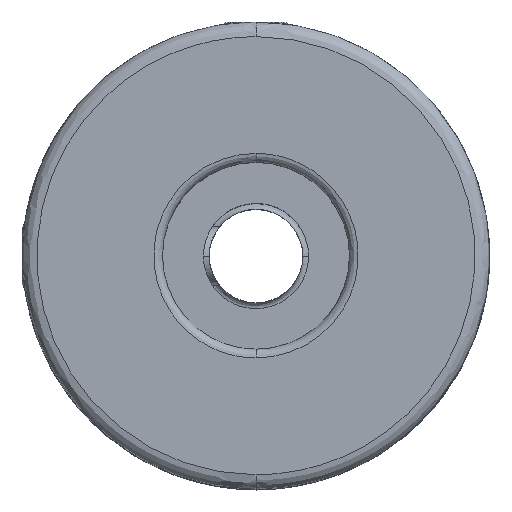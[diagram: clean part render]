
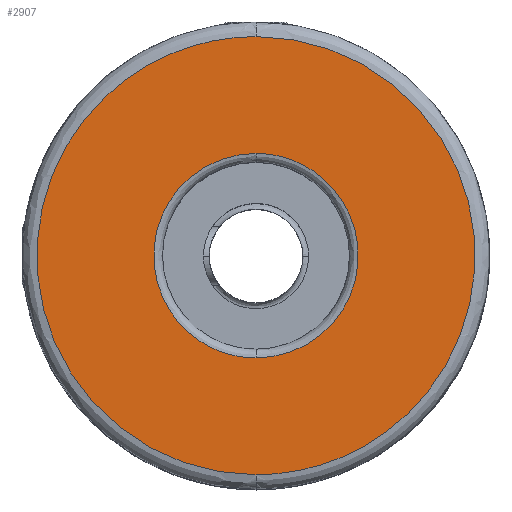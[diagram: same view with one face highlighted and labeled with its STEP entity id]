
A CAD part, top view. The second image highlights one B-rep face of the part: STEP entity #2907.
In plain terms, the highlighted planar face has unit normal (0, 0, 1).
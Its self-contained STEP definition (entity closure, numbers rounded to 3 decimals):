
#656 = EDGE_CURVE ( 'NONE', #3530, #3588, #7852, .T. ) ;
#2628 = CARTESIAN_POINT ( 'NONE',  ( 38.621, -16.755, 26.552 ) ) ;
#2874 = ORIENTED_EDGE ( 'NONE', *, *, #3526, .F. ) ;
#2883 = ORIENTED_EDGE ( 'NONE', *, *, #656, .F. ) ;
#2884 = EDGE_LOOP ( 'NONE', ( #2874, #2883 ) ) ;
#2887 = VERTEX_POINT ( 'NONE', #5253 ) ;
#2888 = EDGE_CURVE ( 'NONE', #2887, #2890, #5292, .T. ) ;
#2889 = ORIENTED_EDGE ( 'NONE', *, *, #2888, .F. ) ;
#2890 = VERTEX_POINT ( 'NONE', #5293 ) ;
#2906 = EDGE_LOOP ( 'NONE', ( #2908, #2889 ) ) ;
#2907 = ADVANCED_FACE ( 'NONE', ( #5306, #5301 ), #5300, .F. ) ;
#2908 = ORIENTED_EDGE ( 'NONE', *, *, #2909, .F. ) ;
#2909 = EDGE_CURVE ( 'NONE', #2890, #2887, #5294, .T. ) ;
#3032 = CARTESIAN_POINT ( 'NONE',  ( 1.121, -16.755, 26.552 ) ) ;
#3526 = EDGE_CURVE ( 'NONE', #3588, #3530, #6570, .T. ) ;
#3530 = VERTEX_POINT ( 'NONE', #6608 ) ;
#3588 = VERTEX_POINT ( 'NONE', #6754 ) ;
#5253 = CARTESIAN_POINT ( 'NONE',  ( 1.121, 10.745, 26.552 ) ) ;
#5288 = CARTESIAN_POINT ( 'NONE',  ( 1.121, -6.755, 26.552 ) ) ;
#5289 = CARTESIAN_POINT ( 'NONE',  ( -16.379, -6.755, 26.552 ) ) ;
#5290 = CARTESIAN_POINT ( 'NONE',  ( -16.379, 10.745, 26.552 ) ) ;
#5291 = CARTESIAN_POINT ( 'NONE',  ( 1.121, 10.745, 26.552 ) ) ;
#5292 =( BOUNDED_CURVE ( )  B_SPLINE_CURVE ( 3, ( #5291, #5290, #5289, #5288 ),
 .UNSPECIFIED., .F., .T. ) 
 B_SPLINE_CURVE_WITH_KNOTS ( ( 4, 4 ),
 ( 0., 1. ),
 .UNSPECIFIED. ) 
 CURVE ( )  GEOMETRIC_REPRESENTATION_ITEM ( )  RATIONAL_B_SPLINE_CURVE ( ( 1., 0.333, 0.333, 1. ) ) 
 REPRESENTATION_ITEM ( '' )  );
#5293 = CARTESIAN_POINT ( 'NONE',  ( 1.121, -6.755, 26.552 ) ) ;
#5294 =( BOUNDED_CURVE ( )  B_SPLINE_CURVE ( 3, ( #5341, #5340, #5339, #5338 ),
 .UNSPECIFIED., .F., .F. ) 
 B_SPLINE_CURVE_WITH_KNOTS ( ( 4, 4 ),
 ( 0., 1. ),
 .UNSPECIFIED. ) 
 CURVE ( )  GEOMETRIC_REPRESENTATION_ITEM ( )  RATIONAL_B_SPLINE_CURVE ( ( 1., 0.333, 0.333, 1. ) ) 
 REPRESENTATION_ITEM ( '' )  );
#5296 = DIRECTION ( 'NONE',  ( 0., 1., 0. ) ) ;
#5297 = DIRECTION ( 'NONE',  ( 0., 0., -1. ) ) ;
#5298 = CARTESIAN_POINT ( 'NONE',  ( 1.121, 1.995, 26.552 ) ) ;
#5299 = AXIS2_PLACEMENT_3D ( 'NONE', #5298, #5297, #5296 ) ;
#5300 = PLANE ( 'NONE',  #5299 ) ;
#5301 = FACE_OUTER_BOUND ( 'NONE', #2884, .T. ) ;
#5306 = FACE_BOUND ( 'NONE', #2906, .T. ) ;
#5338 = CARTESIAN_POINT ( 'NONE',  ( 1.121, 10.745, 26.552 ) ) ;
#5339 = CARTESIAN_POINT ( 'NONE',  ( 18.621, 10.745, 26.552 ) ) ;
#5340 = CARTESIAN_POINT ( 'NONE',  ( 18.621, -6.755, 26.552 ) ) ;
#5341 = CARTESIAN_POINT ( 'NONE',  ( 1.121, -6.755, 26.552 ) ) ;
#6566 = CARTESIAN_POINT ( 'NONE',  ( 1.121, 20.745, 26.552 ) ) ;
#6567 = CARTESIAN_POINT ( 'NONE',  ( -36.379, 20.745, 26.552 ) ) ;
#6568 = CARTESIAN_POINT ( 'NONE',  ( -36.379, -16.755, 26.552 ) ) ;
#6569 = CARTESIAN_POINT ( 'NONE',  ( 1.121, -16.755, 26.552 ) ) ;
#6570 =( BOUNDED_CURVE ( )  B_SPLINE_CURVE ( 3, ( #6569, #6568, #6567, #6566 ),
 .UNSPECIFIED., .F., .F. ) 
 B_SPLINE_CURVE_WITH_KNOTS ( ( 4, 4 ),
 ( 0., 1. ),
 .UNSPECIFIED. ) 
 CURVE ( )  GEOMETRIC_REPRESENTATION_ITEM ( )  RATIONAL_B_SPLINE_CURVE ( ( 1., 0.333, 0.333, 1. ) ) 
 REPRESENTATION_ITEM ( '' )  );
#6608 = CARTESIAN_POINT ( 'NONE',  ( 1.121, 20.745, 26.552 ) ) ;
#6754 = CARTESIAN_POINT ( 'NONE',  ( 1.121, -16.755, 26.552 ) ) ;
#7644 = CARTESIAN_POINT ( 'NONE',  ( 38.621, 20.745, 26.552 ) ) ;
#7645 = CARTESIAN_POINT ( 'NONE',  ( 1.121, 20.745, 26.552 ) ) ;
#7852 =( BOUNDED_CURVE ( )  B_SPLINE_CURVE ( 3, ( #7645, #7644, #2628, #3032 ),
 .UNSPECIFIED., .F., .F. ) 
 B_SPLINE_CURVE_WITH_KNOTS ( ( 4, 4 ),
 ( 0., 1. ),
 .UNSPECIFIED. ) 
 CURVE ( )  GEOMETRIC_REPRESENTATION_ITEM ( )  RATIONAL_B_SPLINE_CURVE ( ( 1., 0.333, 0.333, 1. ) ) 
 REPRESENTATION_ITEM ( '' )  );
